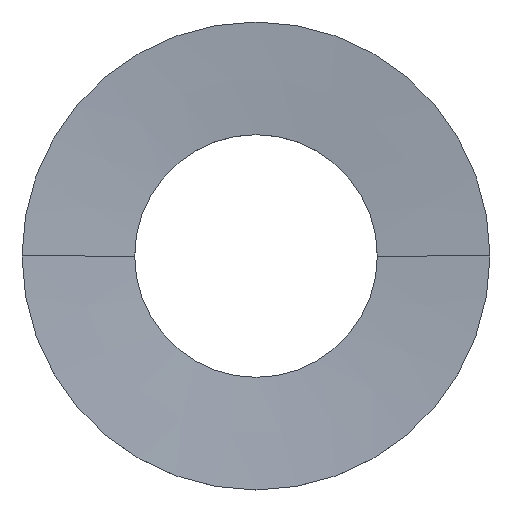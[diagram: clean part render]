
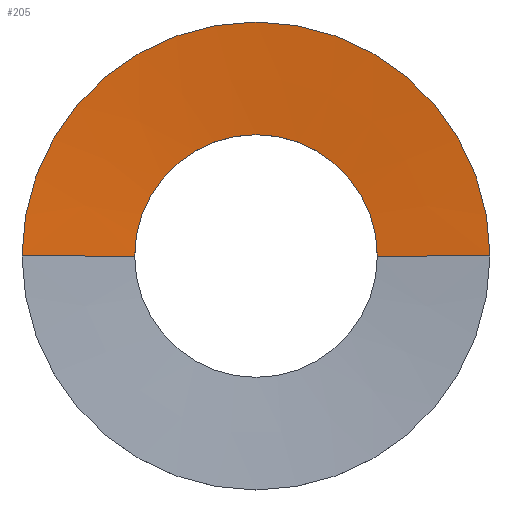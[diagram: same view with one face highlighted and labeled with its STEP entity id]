
A CAD part, top view. The second image highlights one B-rep face of the part: STEP entity #205.
In plain terms, the highlighted conical face has half-angle 85.054 degrees and reference radius 0 mm.
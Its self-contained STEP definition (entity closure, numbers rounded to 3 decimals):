
#5=CARTESIAN_POINT('',(10.8,0.0,37.95));
#6=CARTESIAN_POINT('',(-10.8,0.0,37.95));
#7=CARTESIAN_POINT('',(5.6,0.0,37.5));
#8=CARTESIAN_POINT('',(-5.6,0.0,37.5));
#33=CARTESIAN_POINT('',(0.0,0.0,37.95));
#34=DIRECTION('',(0.0,0.0,1.0));
#35=DIRECTION('',(1.0,0.0,0.0));
#36=AXIS2_PLACEMENT_3D('',#33,#34,#35);
#37=CIRCLE('',#36,10.8);
#38=TRIMMED_CURVE('',#37,(#5),(#6),.T.,.CARTESIAN.);
#45=CARTESIAN_POINT('',(0.0,0.0,37.5));
#46=DIRECTION('',(0.0,0.0,1.0));
#47=DIRECTION('',(1.0,0.0,0.0));
#48=AXIS2_PLACEMENT_3D('',#45,#46,#47);
#49=CIRCLE('',#48,5.6);
#50=TRIMMED_CURVE('',#49,(#7),(#8),.T.,.CARTESIAN.);
#73=CARTESIAN_POINT('',(10.8,0.0,37.95));
#74=CARTESIAN_POINT('',(10.8,0.0,37.95));
#75=CARTESIAN_POINT('',(5.6,0.0,37.5));
#76=CARTESIAN_POINT('',(5.6,0.0,37.5));
#77=B_SPLINE_CURVE_WITH_KNOTS('',3,(#73,#74,#75,#76),.UNSPECIFIED.,.F.,.F.,(4,4),(0.,1.),.PIECEWISE_BEZIER_KNOTS.);
#78=CARTESIAN_POINT('',(-10.8,0.0,37.95));
#79=CARTESIAN_POINT('',(-10.8,0.0,37.95));
#80=CARTESIAN_POINT('',(-5.6,0.0,37.5));
#81=CARTESIAN_POINT('',(-5.6,0.0,37.5));
#82=B_SPLINE_CURVE_WITH_KNOTS('',3,(#78,#79,#80,#81),.UNSPECIFIED.,.F.,.F.,(4,4),(0.,1.),.PIECEWISE_BEZIER_KNOTS.);
#109=CARTESIAN_POINT('',(0.0,0.0,37.015));
#110=DIRECTION('',(0.0,0.0,1.0));
#111=DIRECTION('',(0.0,-1.0,0.0));
#112=AXIS2_PLACEMENT_3D('',#109,#110,#111);
#113=CONICAL_SURFACE('',#112,0.0,1.484);
#133=VERTEX_POINT('',#5);
#134=VERTEX_POINT('',#6);
#135=VERTEX_POINT('',#7);
#136=VERTEX_POINT('',#8);
#141=EDGE_CURVE('',#133,#134,#38,.T.);
#143=EDGE_CURVE('',#135,#136,#50,.T.);
#149=EDGE_CURVE('',#133,#135,#77,.T.);
#150=EDGE_CURVE('',#134,#136,#82,.T.);
#169=ORIENTED_EDGE('',*,*,#141,.T.);
#170=ORIENTED_EDGE('',*,*,#150,.T.);
#171=ORIENTED_EDGE('',*,*,#143,.F.);
#172=ORIENTED_EDGE('',*,*,#149,.F.);
#189=EDGE_LOOP('',(#169,#170,#171,#172));
#197=FACE_OUTER_BOUND('',#189,.T.);
#205=ADVANCED_FACE('',(#197),#113,.F.);
